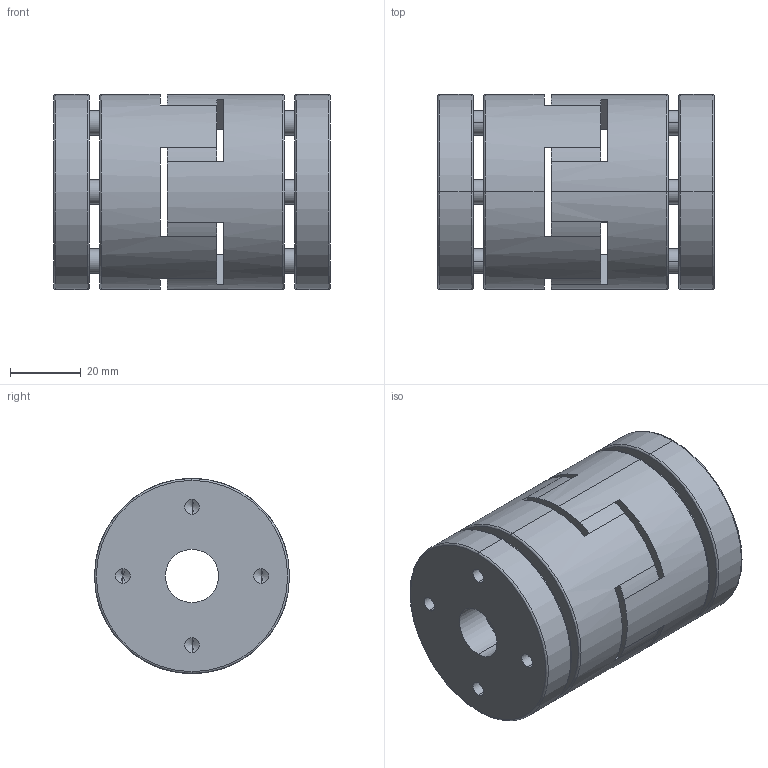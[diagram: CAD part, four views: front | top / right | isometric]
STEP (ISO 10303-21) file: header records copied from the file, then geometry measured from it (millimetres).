
FILE_DESCRIPTION (( 'STEP AP203' ), '1' );
FILE_NAME ('SQR-55P.STEP', '2009-10-01T16:42:01', ( 'USER' ), ( 'HOME' ), 'SwSTEP 2.0', 'SolidWorks 2007', '' );
FILE_SCHEMA (( 'CONFIG_CONTROL_DESIGN' ));
Length unit declared in the file: millimetre
Products named in the file (1): SQR-55P
Bounding box: 78 x 55 x 55 mm (x, y, z)
Volume: 150351.2 mm3; surface area: 42601 mm2
Topology: 3 solids, 3 shells, 136 faces, 350 edges, 216 vertices
Faces by surface type: cylinder 58, plane 50, cone 16, torus 12
Entity records: 4171 total; most frequent: DIRECTION 764, CARTESIAN_POINT 687, ORIENTED_EDGE 668, EDGE_CURVE 334, AXIS2_PLACEMENT_3D 293, VERTEX_POINT 216, LINE 178, VECTOR 178
